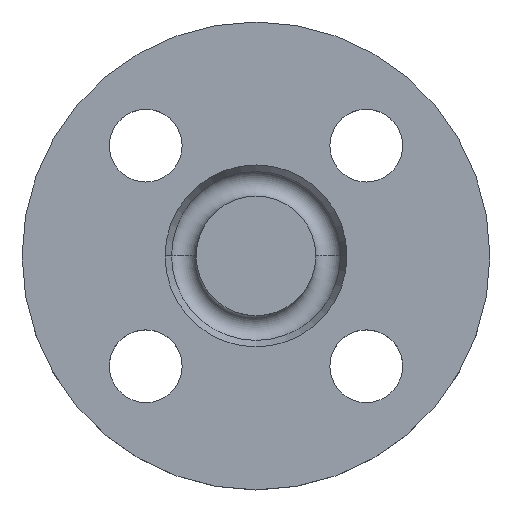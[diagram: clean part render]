
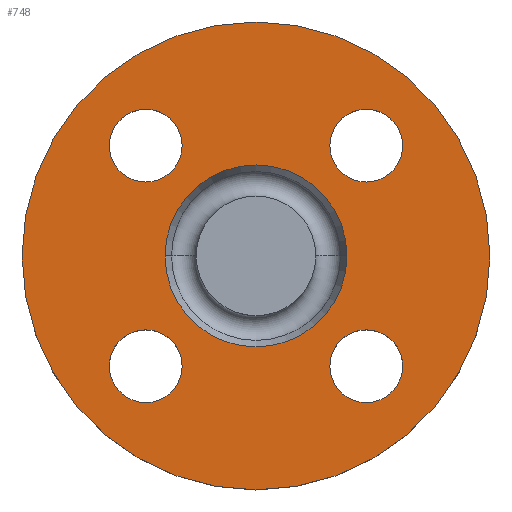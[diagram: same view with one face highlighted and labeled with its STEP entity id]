
A CAD part, top view. The second image highlights one B-rep face of the part: STEP entity #748.
In plain terms, the highlighted planar face has unit normal (0, 0, 1).
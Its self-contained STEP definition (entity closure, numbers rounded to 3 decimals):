
#18 = AXIS2_PLACEMENT_3D ( 'NONE', #28, #285, #93 ) ;
#28 = CARTESIAN_POINT ( 'NONE',  ( 21.213, -21.213, -2. ) ) ;
#30 = ORIENTED_EDGE ( 'NONE', *, *, #553, .T. ) ;
#41 = EDGE_CURVE ( 'NONE', #502, #646, #60, .T. ) ;
#42 = DIRECTION ( 'NONE',  ( 1., 0., 0. ) ) ;
#47 = VERTEX_POINT ( 'NONE', #220 ) ;
#49 = AXIS2_PLACEMENT_3D ( 'NONE', #660, #146, #267 ) ;
#54 = FACE_OUTER_BOUND ( 'NONE', #235, .T. ) ;
#59 = AXIS2_PLACEMENT_3D ( 'NONE', #591, #206, #525 ) ;
#60 = CIRCLE ( 'NONE', #205, 45. ) ;
#64 = VERTEX_POINT ( 'NONE', #389 ) ;
#73 = CARTESIAN_POINT ( 'NONE',  ( 28.213, -21.213, -2. ) ) ;
#93 = DIRECTION ( 'NONE',  ( 1., 0., 0. ) ) ;
#113 = ORIENTED_EDGE ( 'NONE', *, *, #605, .T. ) ;
#114 = VERTEX_POINT ( 'NONE', #504 ) ;
#115 = DIRECTION ( 'NONE',  ( 0., 0., -1. ) ) ;
#119 = AXIS2_PLACEMENT_3D ( 'NONE', #592, #461, #325 ) ;
#124 = FACE_BOUND ( 'NONE', #185, .T. ) ;
#143 = CIRCLE ( 'NONE', #617, 17.5 ) ;
#144 = CIRCLE ( 'NONE', #394, 7. ) ;
#146 = DIRECTION ( 'NONE',  ( 0., 0., -1. ) ) ;
#171 = ORIENTED_EDGE ( 'NONE', *, *, #601, .T. ) ;
#172 = CIRCLE ( 'NONE', #59, 7. ) ;
#185 = EDGE_LOOP ( 'NONE', ( #171, #30 ) ) ;
#192 = CARTESIAN_POINT ( 'NONE',  ( -28.213, -21.213, -2. ) ) ;
#205 = AXIS2_PLACEMENT_3D ( 'NONE', #677, #469, #536 ) ;
#206 = DIRECTION ( 'NONE',  ( 0., 0., -1. ) ) ;
#208 = DIRECTION ( 'NONE',  ( 1., 0., 0. ) ) ;
#220 = CARTESIAN_POINT ( 'NONE',  ( -14.213, 21.213, -2. ) ) ;
#229 = DIRECTION ( 'NONE',  ( 1., 0., 0. ) ) ;
#230 = CIRCLE ( 'NONE', #119, 7. ) ;
#231 = CARTESIAN_POINT ( 'NONE',  ( -14.213, -21.213, -2. ) ) ;
#235 = EDGE_LOOP ( 'NONE', ( #777, #791 ) ) ;
#255 = CARTESIAN_POINT ( 'NONE',  ( 45., 0., -2. ) ) ;
#258 = VERTEX_POINT ( 'NONE', #231 ) ;
#259 = FACE_BOUND ( 'NONE', #406, .T. ) ;
#261 = CARTESIAN_POINT ( 'NONE',  ( 28.213, 21.213, -2. ) ) ;
#267 = DIRECTION ( 'NONE',  ( -1., 0., 0. ) ) ;
#270 = VERTEX_POINT ( 'NONE', #547 ) ;
#272 = ORIENTED_EDGE ( 'NONE', *, *, #273, .T. ) ;
#273 = EDGE_CURVE ( 'NONE', #270, #839, #381, .T. ) ;
#276 = AXIS2_PLACEMENT_3D ( 'NONE', #685, #749, #229 ) ;
#277 = CIRCLE ( 'NONE', #651, 7. ) ;
#285 = DIRECTION ( 'NONE',  ( 0., 0., -1. ) ) ;
#305 = ORIENTED_EDGE ( 'NONE', *, *, #726, .T. ) ;
#311 = CIRCLE ( 'NONE', #692, 7. ) ;
#314 = AXIS2_PLACEMENT_3D ( 'NONE', #512, #783, #447 ) ;
#318 = CARTESIAN_POINT ( 'NONE',  ( 45., 0., -2. ) ) ;
#322 = CARTESIAN_POINT ( 'NONE',  ( -21.213, 21.213, -2. ) ) ;
#325 = DIRECTION ( 'NONE',  ( 1., 0., 0. ) ) ;
#335 = CARTESIAN_POINT ( 'NONE',  ( -28.213, 21.213, -2. ) ) ;
#340 = ORIENTED_EDGE ( 'NONE', *, *, #820, .T. ) ;
#365 = CARTESIAN_POINT ( 'NONE',  ( 0., 0., -2. ) ) ;
#378 = FACE_BOUND ( 'NONE', #709, .T. ) ;
#380 = VERTEX_POINT ( 'NONE', #672 ) ;
#381 = CIRCLE ( 'NONE', #18, 7. ) ;
#389 = CARTESIAN_POINT ( 'NONE',  ( 14.213, 21.213, -2. ) ) ;
#391 = CARTESIAN_POINT ( 'NONE',  ( -21.213, -21.213, -2. ) ) ;
#394 = AXIS2_PLACEMENT_3D ( 'NONE', #543, #456, #208 ) ;
#406 = EDGE_LOOP ( 'NONE', ( #541, #700 ) ) ;
#414 = EDGE_CURVE ( 'NONE', #258, #739, #650, .T. ) ;
#440 = FACE_BOUND ( 'NONE', #774, .T. ) ;
#447 = DIRECTION ( 'NONE',  ( -1., 0., 0. ) ) ;
#449 = VERTEX_POINT ( 'NONE', #335 ) ;
#456 = DIRECTION ( 'NONE',  ( 0., 0., -1. ) ) ;
#461 = DIRECTION ( 'NONE',  ( 0., 0., -1. ) ) ;
#469 = DIRECTION ( 'NONE',  ( 0., 0., -1. ) ) ;
#502 = VERTEX_POINT ( 'NONE', #318 ) ;
#504 = CARTESIAN_POINT ( 'NONE',  ( 17.5, 0., -2. ) ) ;
#512 = CARTESIAN_POINT ( 'NONE',  ( 0., 0., -2. ) ) ;
#523 = EDGE_CURVE ( 'NONE', #839, #270, #230, .T. ) ;
#525 = DIRECTION ( 'NONE',  ( 1., 0., 0. ) ) ;
#533 = ORIENTED_EDGE ( 'NONE', *, *, #523, .T. ) ;
#536 = DIRECTION ( 'NONE',  ( -1., 0., 0. ) ) ;
#541 = ORIENTED_EDGE ( 'NONE', *, *, #414, .T. ) ;
#543 = CARTESIAN_POINT ( 'NONE',  ( 21.213, 21.213, -2. ) ) ;
#547 = CARTESIAN_POINT ( 'NONE',  ( 14.213, -21.213, -2. ) ) ;
#553 = EDGE_CURVE ( 'NONE', #380, #114, #577, .T. ) ;
#569 = CARTESIAN_POINT ( 'NONE',  ( 21.213, 21.213, -2. ) ) ;
#577 = CIRCLE ( 'NONE', #49, 17.5 ) ;
#579 = DIRECTION ( 'NONE',  ( 0., 0., 1. ) ) ;
#591 = CARTESIAN_POINT ( 'NONE',  ( -21.213, 21.213, -2. ) ) ;
#592 = CARTESIAN_POINT ( 'NONE',  ( 21.213, -21.213, -2. ) ) ;
#595 = DIRECTION ( 'NONE',  ( 0., 0., -1. ) ) ;
#601 = EDGE_CURVE ( 'NONE', #114, #380, #143, .T. ) ;
#605 = EDGE_CURVE ( 'NONE', #64, #802, #144, .T. ) ;
#617 = AXIS2_PLACEMENT_3D ( 'NONE', #365, #115, #741 ) ;
#627 = DIRECTION ( 'NONE',  ( 0., 0., -1. ) ) ;
#629 = EDGE_LOOP ( 'NONE', ( #533, #272 ) ) ;
#636 = AXIS2_PLACEMENT_3D ( 'NONE', #391, #595, #693 ) ;
#645 = PLANE ( 'NONE',  #787 ) ;
#646 = VERTEX_POINT ( 'NONE', #823 ) ;
#650 = CIRCLE ( 'NONE', #276, 7. ) ;
#651 = AXIS2_PLACEMENT_3D ( 'NONE', #322, #776, #42 ) ;
#655 = EDGE_CURVE ( 'NONE', #739, #258, #744, .T. ) ;
#660 = CARTESIAN_POINT ( 'NONE',  ( 0., 0., -2. ) ) ;
#672 = CARTESIAN_POINT ( 'NONE',  ( -17.5, 0., -2. ) ) ;
#677 = CARTESIAN_POINT ( 'NONE',  ( 0., 0., -2. ) ) ;
#685 = CARTESIAN_POINT ( 'NONE',  ( -21.213, -21.213, -2. ) ) ;
#692 = AXIS2_PLACEMENT_3D ( 'NONE', #569, #627, #841 ) ;
#693 = DIRECTION ( 'NONE',  ( 1., 0., 0. ) ) ;
#700 = ORIENTED_EDGE ( 'NONE', *, *, #655, .T. ) ;
#707 = ORIENTED_EDGE ( 'NONE', *, *, #735, .T. ) ;
#709 = EDGE_LOOP ( 'NONE', ( #707, #113 ) ) ;
#713 = FACE_BOUND ( 'NONE', #629, .T. ) ;
#726 = EDGE_CURVE ( 'NONE', #449, #47, #277, .T. ) ;
#735 = EDGE_CURVE ( 'NONE', #802, #64, #311, .T. ) ;
#739 = VERTEX_POINT ( 'NONE', #192 ) ;
#741 = DIRECTION ( 'NONE',  ( -1., 0., 0. ) ) ;
#744 = CIRCLE ( 'NONE', #636, 7. ) ;
#748 = ADVANCED_FACE ( 'NONE', ( #713, #259, #440, #378, #124, #54 ), #645, .T. ) ;
#749 = DIRECTION ( 'NONE',  ( 0., 0., -1. ) ) ;
#756 = EDGE_CURVE ( 'NONE', #646, #502, #808, .T. ) ;
#774 = EDGE_LOOP ( 'NONE', ( #340, #305 ) ) ;
#776 = DIRECTION ( 'NONE',  ( 0., 0., -1. ) ) ;
#777 = ORIENTED_EDGE ( 'NONE', *, *, #41, .F. ) ;
#780 = DIRECTION ( 'NONE',  ( 1., 0., 0. ) ) ;
#783 = DIRECTION ( 'NONE',  ( 0., 0., -1. ) ) ;
#787 = AXIS2_PLACEMENT_3D ( 'NONE', #255, #579, #780 ) ;
#791 = ORIENTED_EDGE ( 'NONE', *, *, #756, .F. ) ;
#802 = VERTEX_POINT ( 'NONE', #261 ) ;
#808 = CIRCLE ( 'NONE', #314, 45. ) ;
#820 = EDGE_CURVE ( 'NONE', #47, #449, #172, .T. ) ;
#823 = CARTESIAN_POINT ( 'NONE',  ( -45., 0., -2. ) ) ;
#839 = VERTEX_POINT ( 'NONE', #73 ) ;
#841 = DIRECTION ( 'NONE',  ( 1., 0., 0. ) ) ;
